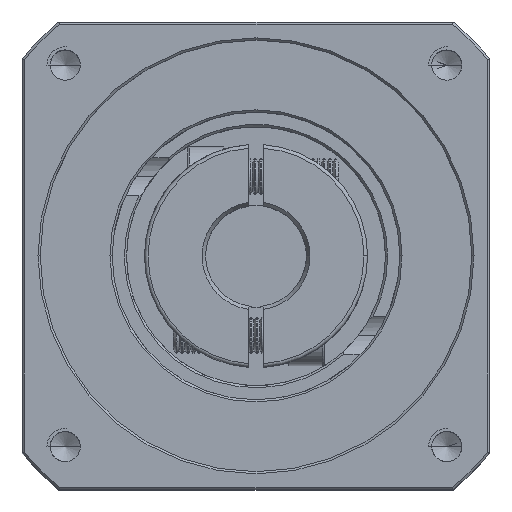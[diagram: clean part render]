
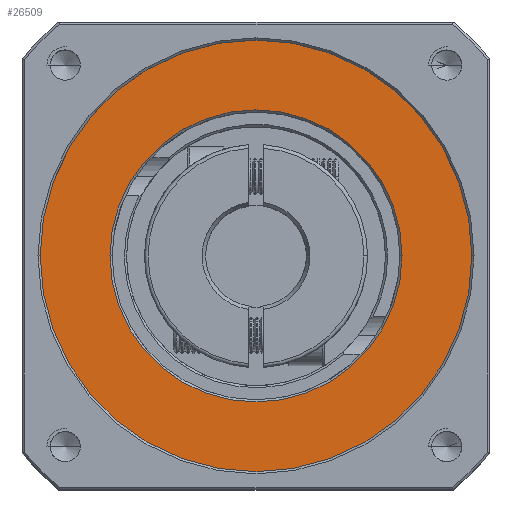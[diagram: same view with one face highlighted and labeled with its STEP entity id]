
A CAD part, top view. The second image highlights one B-rep face of the part: STEP entity #26509.
In plain terms, the highlighted planar face has unit normal (0, 0, 1).
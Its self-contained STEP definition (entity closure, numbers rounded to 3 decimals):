
#2042 = DIRECTION ( 'NONE',  ( 1., 0., 0. ) ) ;
#4327 = FACE_BOUND ( 'NONE', #50190, .T. ) ;
#6330 = DIRECTION ( 'NONE',  ( 1., 0., 0. ) ) ;
#11580 = CARTESIAN_POINT ( 'NONE',  ( -74.957, 22.264, 44.201 ) ) ;
#13860 = CIRCLE ( 'NONE', #56709, 20.3 ) ;
#14166 = DIRECTION ( 'NONE',  ( 0., 0., 1. ) ) ;
#14986 = ORIENTED_EDGE ( 'NONE', *, *, #37850, .T. ) ;
#19475 = DIRECTION ( 'NONE',  ( 1., 0., 0. ) ) ;
#21408 = PLANE ( 'NONE',  #49632 ) ;
#24824 = CIRCLE ( 'NONE', #94587, 20.3 ) ;
#26509 = ADVANCED_FACE ( 'NONE', ( #4327, #82970 ), #21408, .T. ) ;
#28146 = AXIS2_PLACEMENT_3D ( 'NONE', #96058, #49127, #2042 ) ;
#29887 = CIRCLE ( 'NONE', #99055, 30. ) ;
#33349 = VERTEX_POINT ( 'NONE', #88056 ) ;
#37736 = CIRCLE ( 'NONE', #28146, 30. ) ;
#37850 = EDGE_CURVE ( 'NONE', #64801, #38711, #13860, .T. ) ;
#38711 = VERTEX_POINT ( 'NONE', #51685 ) ;
#41304 = ORIENTED_EDGE ( 'NONE', *, *, #61130, .T. ) ;
#42634 = CARTESIAN_POINT ( 'NONE',  ( -95.257, 22.264, 44.201 ) ) ;
#43186 = EDGE_CURVE ( 'NONE', #62507, #33349, #37736, .T. ) ;
#44025 = CARTESIAN_POINT ( 'NONE',  ( -74.957, 22.264, 44.201 ) ) ;
#49127 = DIRECTION ( 'NONE',  ( 0., 0., 1. ) ) ;
#49632 = AXIS2_PLACEMENT_3D ( 'NONE', #61225, #14166, #69103 ) ;
#50190 = EDGE_LOOP ( 'NONE', ( #59321, #14986 ) ) ;
#51685 = CARTESIAN_POINT ( 'NONE',  ( -54.657, 22.264, 44.201 ) ) ;
#51926 = DIRECTION ( 'NONE',  ( 1., 0., 0. ) ) ;
#53440 = DIRECTION ( 'NONE',  ( 0., 0., -1. ) ) ;
#56709 = AXIS2_PLACEMENT_3D ( 'NONE', #100425, #53440, #6330 ) ;
#59321 = ORIENTED_EDGE ( 'NONE', *, *, #85000, .T. ) ;
#60388 = ORIENTED_EDGE ( 'NONE', *, *, #43186, .T. ) ;
#61130 = EDGE_CURVE ( 'NONE', #33349, #62507, #29887, .T. ) ;
#61225 = CARTESIAN_POINT ( 'NONE',  ( -74.957, 22.264, 44.201 ) ) ;
#62507 = VERTEX_POINT ( 'NONE', #93958 ) ;
#64801 = VERTEX_POINT ( 'NONE', #42634 ) ;
#66525 = DIRECTION ( 'NONE',  ( 0., 0., 1. ) ) ;
#69103 = DIRECTION ( 'NONE',  ( 1., 0., 0. ) ) ;
#82970 = FACE_OUTER_BOUND ( 'NONE', #100536, .T. ) ;
#85000 = EDGE_CURVE ( 'NONE', #38711, #64801, #24824, .T. ) ;
#88056 = CARTESIAN_POINT ( 'NONE',  ( -44.957, 22.264, 44.201 ) ) ;
#93958 = CARTESIAN_POINT ( 'NONE',  ( -104.957, 22.264, 44.201 ) ) ;
#94587 = AXIS2_PLACEMENT_3D ( 'NONE', #44025, #98891, #51926 ) ;
#96058 = CARTESIAN_POINT ( 'NONE',  ( -74.957, 22.264, 44.201 ) ) ;
#98891 = DIRECTION ( 'NONE',  ( 0., 0., -1. ) ) ;
#99055 = AXIS2_PLACEMENT_3D ( 'NONE', #11580, #66525, #19475 ) ;
#100425 = CARTESIAN_POINT ( 'NONE',  ( -74.957, 22.264, 44.201 ) ) ;
#100536 = EDGE_LOOP ( 'NONE', ( #41304, #60388 ) ) ;
